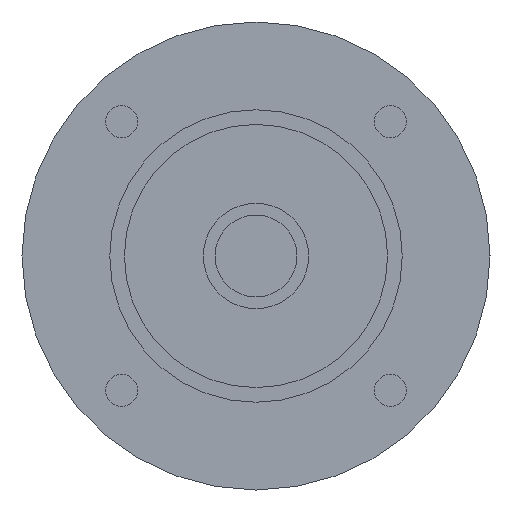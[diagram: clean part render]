
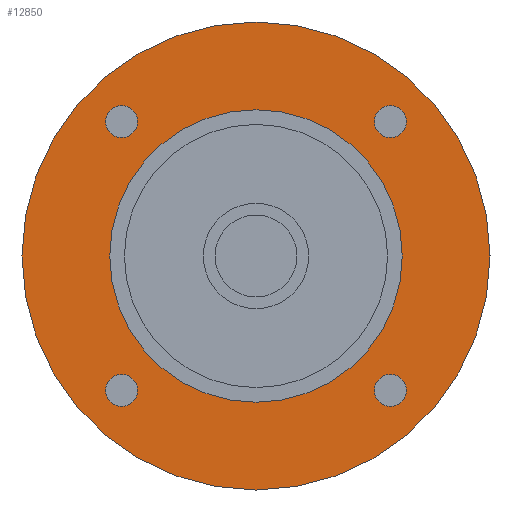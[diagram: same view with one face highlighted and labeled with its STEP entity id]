
A CAD part, left-side view. The second image highlights one B-rep face of the part: STEP entity #12850.
In plain terms, the highlighted planar face has unit normal (-1, 0, 0) as drawn and (0, 0, -1) by its records, which use the part's own axes.
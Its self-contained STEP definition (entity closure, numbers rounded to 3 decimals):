
#11670=CARTESIAN_POINT('',(-40.,0.,-42.2));
#11680=VERTEX_POINT('',#11670);
#11770=CARTESIAN_POINT('',(40.,0.,-42.2));
#11780=VERTEX_POINT('',#11770);
#11810=CARTESIAN_POINT('',(0.,0.,
-42.2));
#11820=DIRECTION('',(0.,0.,1.));
#11830=DIRECTION('',(1.,0.,0.));
#11840=AXIS2_PLACEMENT_3D('',#11810,#11820,#11830);
#11850=CIRCLE('',#11840,40.);
#11860=CARTESIAN_POINT('',(0.,-40.,-42.2));
#11870=VERTEX_POINT('',#11860);
#11880=EDGE_CURVE('',#11870,#11780,#11850,.T.);
#11900=EDGE_CURVE('',#11680,#11870,#11850,.T.);
#11950=CARTESIAN_POINT('',(0.,0.,
-42.2));
#11960=DIRECTION('',(0.,0.,-1.));
#11970=DIRECTION('',(1.,0.,0.));
#11980=AXIS2_PLACEMENT_3D('',#11950,#11960,#11970);
#11990=PLANE('',#11980);
#12000=CARTESIAN_POINT('',(22.981,-22.981,-42.2));
#12010=DIRECTION('',(0.,0.,-1.));
#12020=DIRECTION('',(1.,0.,0.));
#12030=AXIS2_PLACEMENT_3D('',#12000,#12010,#12020);
#12040=CIRCLE('',#12030,2.75);
#12050=CARTESIAN_POINT('',(25.731,-22.981,-42.2));
#12060=VERTEX_POINT('',#12050);
#12070=CARTESIAN_POINT('',(20.231,-22.981,-42.2));
#12080=VERTEX_POINT('',#12070);
#12090=EDGE_CURVE('',#12060,#12080,#12040,.T.);
#12100=ORIENTED_EDGE('',*,*,#12090,.F.);
#12110=EDGE_CURVE('',#12080,#12060,#12040,.T.);
#12120=ORIENTED_EDGE('',*,*,#12110,.F.);
#12130=EDGE_LOOP('',(#12120,#12100));
#12140=FACE_BOUND('',#12130,.T.);
#12150=ORIENTED_EDGE('',*,*,#11880,.F.);
#12160=EDGE_CURVE('',#11780,#11680,#11850,.T.);
#12170=ORIENTED_EDGE('',*,*,#12160,.F.);
#12180=ORIENTED_EDGE('',*,*,#11900,.F.);
#12190=EDGE_LOOP('',(#12180,#12170,#12150));
#12200=FACE_OUTER_BOUND('',#12190,.T.);
#12210=CARTESIAN_POINT('',(22.981,22.981,-42.2));
#12220=DIRECTION('',(0.,0.,-1.));
#12230=DIRECTION('',(0.,1.,0.));
#12240=AXIS2_PLACEMENT_3D('',#12210,#12220,#12230);
#12250=CIRCLE('',#12240,2.75);
#12260=CARTESIAN_POINT('',(22.981,25.731,-42.2));
#12270=VERTEX_POINT('',#12260);
#12280=CARTESIAN_POINT('',(22.981,20.231,-42.2));
#12290=VERTEX_POINT('',#12280);
#12300=EDGE_CURVE('',#12270,#12290,#12250,.T.);
#12310=ORIENTED_EDGE('',*,*,#12300,.F.);
#12320=EDGE_CURVE('',#12290,#12270,#12250,.T.);
#12330=ORIENTED_EDGE('',*,*,#12320,.F.);
#12340=EDGE_LOOP('',(#12330,#12310));
#12350=FACE_BOUND('',#12340,.T.);
#12360=CARTESIAN_POINT('',(-22.981,22.981,-42.2));
#12370=DIRECTION('',(0.,0.,-1.));
#12380=DIRECTION('',(-1.,0.,0.));
#12390=AXIS2_PLACEMENT_3D('',#12360,#12370,#12380);
#12400=CIRCLE('',#12390,2.75);
#12410=CARTESIAN_POINT('',(-25.731,22.981,-42.2));
#12420=VERTEX_POINT('',#12410);
#12430=CARTESIAN_POINT('',(-20.231,22.981,-42.2));
#12440=VERTEX_POINT('',#12430);
#12450=EDGE_CURVE('',#12420,#12440,#12400,.T.);
#12460=ORIENTED_EDGE('',*,*,#12450,.F.);
#12470=EDGE_CURVE('',#12440,#12420,#12400,.T.);
#12480=ORIENTED_EDGE('',*,*,#12470,.F.);
#12490=EDGE_LOOP('',(#12480,#12460));
#12500=FACE_BOUND('',#12490,.T.);
#12510=CARTESIAN_POINT('',(-22.981,-22.981,-42.2));
#12520=DIRECTION('',(0.,0.,-1.));
#12530=DIRECTION('',(0.,-1.,0.));
#12540=AXIS2_PLACEMENT_3D('',#12510,#12520,#12530);
#12550=CIRCLE('',#12540,2.75);
#12560=CARTESIAN_POINT('',(-22.981,-25.731,-42.2));
#12570=VERTEX_POINT('',#12560);
#12580=CARTESIAN_POINT('',(-22.981,-20.231,-42.2));
#12590=VERTEX_POINT('',#12580);
#12600=EDGE_CURVE('',#12570,#12590,#12550,.T.);
#12610=ORIENTED_EDGE('',*,*,#12600,.F.);
#12620=EDGE_CURVE('',#12590,#12570,#12550,.T.);
#12630=ORIENTED_EDGE('',*,*,#12620,.F.);
#12640=EDGE_LOOP('',(#12630,#12610));
#12650=FACE_BOUND('',#12640,.T.);
#12660=CARTESIAN_POINT('',(0.,0.,
-42.2));
#12670=DIRECTION('',(0.,0.,1.));
#12680=DIRECTION('',(0.,1.,0.));
#12690=AXIS2_PLACEMENT_3D('',#12660,#12670,#12680);
#12700=CIRCLE('',#12690,25.);
#12710=CARTESIAN_POINT('',(-25.,0.,-42.2));
#12720=VERTEX_POINT('',#12710);
#12730=CARTESIAN_POINT('',(25.,0.,-42.2));
#12740=VERTEX_POINT('',#12730);
#12750=EDGE_CURVE('',#12720,#12740,#12700,.T.);
#12760=ORIENTED_EDGE('',*,*,#12750,.T.);
#12770=CARTESIAN_POINT('',(0.,25.,-42.2));
#12780=VERTEX_POINT('',#12770);
#12790=EDGE_CURVE('',#12780,#12720,#12700,.T.);
#12800=ORIENTED_EDGE('',*,*,#12790,.T.);
#12810=EDGE_CURVE('',#12740,#12780,#12700,.T.);
#12820=ORIENTED_EDGE('',*,*,#12810,.T.);
#12830=EDGE_LOOP('',(#12820,#12800,#12760));
#12840=FACE_BOUND('',#12830,.T.);
#12850=ADVANCED_FACE('',(#12140,#12200,#12350,#12500,#12650,#12840),
#11990,.T.);
